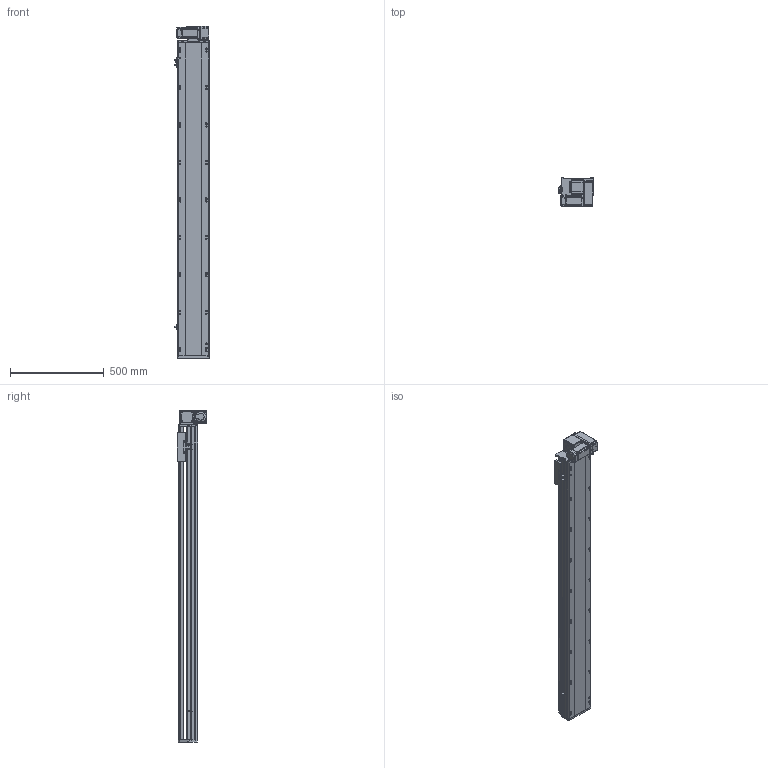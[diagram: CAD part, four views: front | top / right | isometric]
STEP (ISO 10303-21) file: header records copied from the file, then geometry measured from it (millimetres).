
FILE_DESCRIPTION (( 'STEP AP214' ), '1' );
FILE_NAME ('RTB17S-XX-1400-RM-M40-C4.STEP', '2025-12-11T08:18:58', ( '' ), ( '' ), 'SwSTEP 2.0', 'SolidWorks 2018', '' );
FILE_SCHEMA (( 'AUTOMOTIVE_DESIGN' ));
Length unit declared in the file: millimetre
Products named in the file (14): RTB14-L-018P^RTB17S-RM-々湍釱蚾饜-400W_RTB17S-XX-XX-RM-M40-C4; RTH13-BL-012覜茼え俋离^RTB17S-XX-XX-RM-M40-C4; RTB14-L-008-M20--萇儂啣^RTB17S-RM-々湍釱蚾饜-400W_RTB17S-XX-XX-RM-M40-C4; RTB14-L-005P--轴承塑胶压盖^RTB17S-RM-皮带座装配-400W_RTB17S-XX-XX-RM-M40-C4; RTB17S-L-001耜醱啣^RTB17S-XX-XX-RM-M40-C4; OMRON EE-SX672 传感器^RTB17S-XX-XX-RM-M40-C4; 400W侜督萇儂^RTB17S-XX-XX-RM-M40-C4; RTB17S-L-007奻裔^RTB17S-XX-XX-RM-M40-C4; RTB17S-XX-1400-RM-M40-C4; RTB17S-L-014-T20--々湍釱^RTB17S-RM-々湍釱蚾饜-400W_RTB17S-XX-XX-RM-M40-C4; RTB14-L-017P^RTB17S-RM-々湍釱蚾饜-400W_RTB17S-XX-XX-RM-M40-C4; RTB17S-RM-々湍釱蚾饜-400W^RTB17S-XX-XX-RM-M40-C4; RTB17S-L-004佪裝蹟譫蟀諉釱^RTB17S-XX-XX-RM-M40-C4; RTB17-R-011菁釱^RTB17S-XX-XX-RM-M40-C4
Assembly tree (16 placements, depth 3):
  RTB17S-XX-1400-RM-M40-C4
    RTB17-R-011菁釱^RTB17S-XX-XX-RM-M40-C4
    RTB17S-L-007奻裔^RTB17S-XX-XX-RM-M40-C4
    OMRON EE-SX672 传感器^RTB17S-XX-XX-RM-M40-C4  x3
    RTB17S-L-001耜醱啣^RTB17S-XX-XX-RM-M40-C4
    400W侜督萇儂^RTB17S-XX-XX-RM-M40-C4
    RTB17S-L-004佪裝蹟譫蟀諉釱^RTB17S-XX-XX-RM-M40-C4
    RTH13-BL-012覜茼え俋离^RTB17S-XX-XX-RM-M40-C4
    RTB17S-RM-々湍釱蚾饜-400W^RTB17S-XX-XX-RM-M40-C4
      RTB17S-L-014-T20--々湍釱^RTB17S-RM-々湍釱蚾饜-400W_RTB17S-XX-XX-RM-M40-C4
      RTB14-L-005P--轴承塑胶压盖^RTB17S-RM-皮带座装配-400W_RTB17S-XX-XX-RM-M40-C4
      RTB14-L-008-M20--萇儂啣^RTB17S-RM-々湍釱蚾饜-400W_RTB17S-XX-XX-RM-M40-C4
      RTB14-L-017P^RTB17S-RM-々湍釱蚾饜-400W_RTB17S-XX-XX-RM-M40-C4  x2
      RTB14-L-018P^RTB17S-RM-々湍釱蚾饜-400W_RTB17S-XX-XX-RM-M40-C4
Bounding box: 183.5 x 156.5 x 1772.5 mm (x, y, z)
Volume: 15638949.3 mm3; surface area: 1852882.1 mm2
Topology: 15 solids, 15 shells, 2237 faces, 6195 edges, 4041 vertices
Faces by surface type: plane 1072, cylinder 717, bspline 301, cone 139, torus 8
Entity records: 64169 total; most frequent: CARTESIAN_POINT 18000, ORIENTED_EDGE 9234, DIRECTION 8576, EDGE_CURVE 4617, VERTEX_POINT 3029, AXIS2_PLACEMENT_3D 2959, LINE 2658, VECTOR 2658
